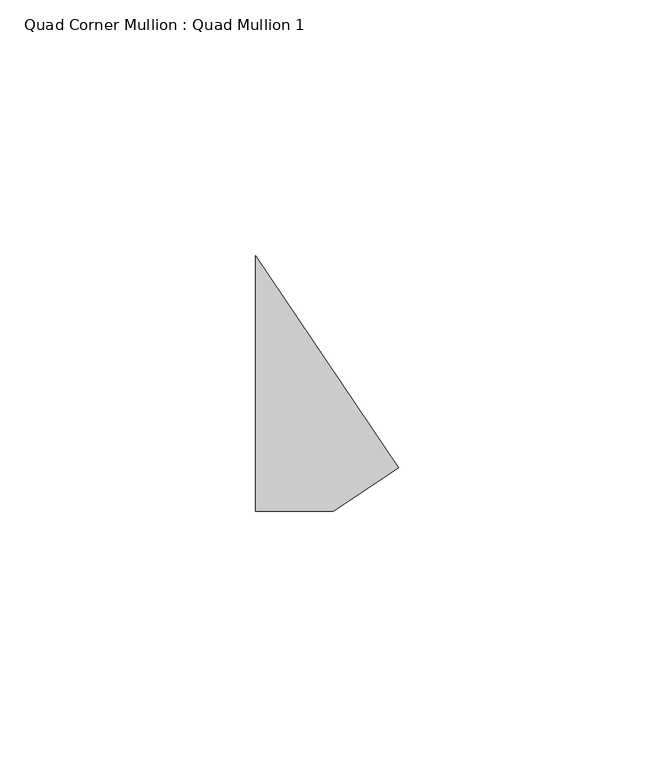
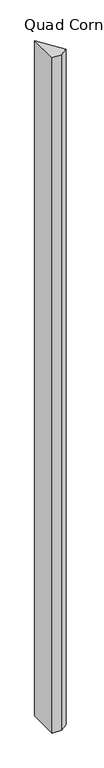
"""IFC4 building model written with IfcOpenShell, lengths in millimetres: member geometry, Quad Corner Mullion : Quad Mullion 1."""

import ifcopenshell
import ifcopenshell.guid

model = None  # the IFC model being written
_history = None  # IfcOwnerHistory: only IFC2X3 demands one
_inside = {}  # id of a spatial element -> (the spatial element, [elements in it])
_under = {}  # id of a project, library or spatial element -> (it, [spatial elements below it])
_declared = {}  # id of a project -> (the project, [libraries it declares])
_typed = {}  # id of a type object -> (the type object, [elements of that type])
_made_of = {}  # id of a material, layer set ... -> (it, [elements and type objects made of it])


def new_model(schema):
    """Start an empty IFC model of exactly this schema.

    Asked for "IFC4X3", IfcOpenShell would pick the latest addendum, in which some entities
    have other attributes; the version numbers below select the first issue.
    IFC2X3 requires an IfcOwnerHistory on every rooted entity: one is made here for all.
    """
    global model, _history
    if schema == "IFC4X3":
        model = ifcopenshell.file(schema_version=(4, 3, 0, 0))
    else:
        model = ifcopenshell.file(schema=schema)
    _inside.clear()
    _under.clear()
    _declared.clear()
    _typed.clear()
    _made_of.clear()
    _history = None
    if model.schema == "IFC2X3":
        org = make("IfcOrganization", Name="unknown")
        user = make(
            "IfcPersonAndOrganization",
            ThePerson=make("IfcPerson", FamilyName="unknown"),
            TheOrganization=org,
        )
        app = make(
            "IfcApplication",
            ApplicationDeveloper=org,
            Version="unknown",
            ApplicationFullName="unknown",
            ApplicationIdentifier="unknown",
        )
        _history = make(
            "IfcOwnerHistory",
            OwningUser=user,
            OwningApplication=app,
            ChangeAction="ADDED",
            CreationDate=0,
        )
    return model


def make(cls, **values):
    """One entity of the class cls with the attributes given. An attribute that is None is left unset."""
    return model.create_entity(
        cls, **{name: value for name, value in values.items() if value is not None}
    )


def rooted(cls, **values):
    """An entity with a GlobalId (a new one), such as an element, a storey or a relation."""
    return make(cls, GlobalId=ifcopenshell.guid.new(), OwnerHistory=_history, **values)


def si_unit(unit_type, name, prefix=None):
    """IfcSIUnit, for example si_unit("LENGTHUNIT", "METRE", prefix="MILLI")."""
    return make("IfcSIUnit", UnitType=unit_type, Prefix=prefix, Name=name)


def assignment(units):
    """IfcUnitAssignment: the units of a project."""
    return None if units is None else make("IfcUnitAssignment", Units=units)


def point(xyz):
    """IfcCartesianPoint."""
    return None if xyz is None else make("IfcCartesianPoint", Coordinates=xyz)


def direction(xyz):
    """IfcDirection."""
    return None if xyz is None else make("IfcDirection", DirectionRatios=xyz)


def frame(location, z_axis=None, x_axis=None):
    """IfcAxis2Placement3D, a coordinate frame: its origin and axes. An axis left out is left unset."""
    return make(
        "IfcAxis2Placement3D",
        Location=point(location),
        Axis=direction(z_axis),
        RefDirection=direction(x_axis),
    )


def origin():
    """The frame at (0, 0, 0) with its axes left unset."""
    return frame((0.0, 0.0, 0.0))


def place(relative_to, where):
    """IfcLocalPlacement: puts the frame where relative to a parent placement (None: the world)."""
    return make(
        "IfcLocalPlacement", PlacementRelTo=relative_to, RelativePlacement=where
    )


def context(
    kind, dimensions, precision=None, world=None, true_north=None, identifier=None
):
    """IfcGeometricRepresentationContext, for example the 3D "Model" context."""
    return make(
        "IfcGeometricRepresentationContext",
        ContextIdentifier=identifier,
        ContextType=kind,
        CoordinateSpaceDimension=dimensions,
        Precision=precision,
        WorldCoordinateSystem=world,
        TrueNorth=true_north,
    )


def project(units=None, contexts=None):
    """IfcProject with its units and contexts."""
    return rooted(
        "IfcProject",
        Name="project",
        RepresentationContexts=contexts,
        UnitsInContext=assignment(units),
    )


def spatial(cls, under=None, at=None, **own):
    """A site, building, storey or space (cls), placed at a placement, below another one or the project."""
    s = rooted(cls, ObjectPlacement=at, **own)
    if under is not None:
        _under.setdefault(under.id(), (under, []))[1].append(s)
    return s


def polyline(points):
    """IfcPolyline through the points."""
    return make("IfcPolyline", Points=[point(p) for p in points])


def outline(outer, holes=None, kind="AREA"):
    """IfcArbitraryClosedProfileDef: a profile drawn as a closed curve; with holes, ...WithVoids."""
    if holes is None:
        return make("IfcArbitraryClosedProfileDef", ProfileType=kind, OuterCurve=outer)
    return make(
        "IfcArbitraryProfileDefWithVoids",
        ProfileType=kind,
        OuterCurve=outer,
        InnerCurves=holes,
    )


def extrude(swept, where, along, depth):
    """IfcExtrudedAreaSolid: the profile swept, set in the frame where, extruded along a direction by depth."""
    return make(
        "IfcExtrudedAreaSolid",
        SweptArea=swept,
        Position=where,
        ExtrudedDirection=direction(along),
        Depth=depth,
    )


def shape(context_of_items, identifier, shape_type, items):
    """IfcShapeRepresentation: the items that make up one representation, for example the "Body"."""
    return make(
        "IfcShapeRepresentation",
        ContextOfItems=context_of_items,
        RepresentationIdentifier=identifier,
        RepresentationType=shape_type,
        Items=items,
    )


def source(mapping_origin, context_of_items, identifier, shape_type, items):
    """IfcRepresentationMap: a shape defined once, which mapped items show again and again."""
    return make(
        "IfcRepresentationMap",
        MappingOrigin=mapping_origin,
        MappedRepresentation=shape(context_of_items, identifier, shape_type, items),
    )


def transform(
    local_origin,
    x_axis=None,
    y_axis=None,
    z_axis=None,
    scale=None,
    scale2=None,
    scale3=None,
    uniform=True,
):
    """IfcCartesianTransformationOperator3D, or its non-uniform kind. x_axis, y_axis, z_axis: its Axis1, 2, 3."""
    if uniform:
        return make(
            "IfcCartesianTransformationOperator3D",
            Axis1=direction(x_axis),
            Axis2=direction(y_axis),
            LocalOrigin=point(local_origin),
            Scale=scale,
            Axis3=direction(z_axis),
        )
    return make(
        "IfcCartesianTransformationOperator3DnonUniform",
        Axis1=direction(x_axis),
        Axis2=direction(y_axis),
        LocalOrigin=point(local_origin),
        Scale=scale,
        Axis3=direction(z_axis),
        Scale2=scale2,
        Scale3=scale3,
    )


def mapped(mapping_source, mapping_target):
    """IfcMappedItem: shows the shape of a source again, moved by a transform."""
    return make(
        "IfcMappedItem", MappingSource=mapping_source, MappingTarget=mapping_target
    )


def made_of(thing, what):
    """Note that an element or type object is made of a material, layer set ...; save() writes the relation."""
    if what is not None:
        _made_of.setdefault(what.id(), (what, []))[1].append(thing)
    return thing


def element(
    cls,
    number,
    at=None,
    inside=None,
    cuts=None,
    type_object=None,
    material=None,
    context=None,
    identifier="Body",
    shape_type=None,
    held_by="IfcProductDefinitionShape",
    body=None,
    shapes=None,
    **own,
):
    """One element of the class cls, such as IfcWall. Its Tag is "e" and its number.

    at: its placement. inside: the storey or other place that contains it. cuts: it is an
    opening in that element (IfcRelVoidsElement). A single representation is given by context,
    identifier, shape_type and body (its items); several are given by shapes. held_by: the class
    of the entity that holds the representations. save() writes the other relations.
    """
    e = rooted(cls, Tag="e%d" % number, ObjectPlacement=at, **own)
    if body is not None:
        shapes = [shape(context, identifier, shape_type, body)]
    if shapes is not None:
        e.Representation = make(held_by, Representations=shapes)
    if inside is not None:
        _inside.setdefault(inside.id(), (inside, []))[1].append(e)
    if cuts is not None:
        rooted(
            "IfcRelVoidsElement", RelatingBuildingElement=cuts, RelatedOpeningElement=e
        )
    if type_object is not None:
        _typed.setdefault(type_object.id(), (type_object, []))[1].append(e)
    return made_of(e, material)


def aggregate(whole, parts):
    """IfcRelAggregates: a whole, such as a stair, and the parts it consists of."""
    return rooted("IfcRelAggregates", RelatingObject=whole, RelatedObjects=parts)


def save(model, path):
    """Write the relations noted so far, then the file.

    IfcRelAggregates (storeys below a building ...), IfcRelContainedInSpatialStructure (elements
    in a storey), IfcRelDefinesByType, IfcRelAssociatesMaterial and IfcRelDeclares: one each for
    every whole, place, type object, material and project.
    """
    for whole, parts in _under.values():
        aggregate(whole, parts)
    for where, things in _inside.values():
        rooted(
            "IfcRelContainedInSpatialStructure",
            RelatedElements=things,
            RelatingStructure=where,
        )
    for kind, things in _typed.values():
        rooted("IfcRelDefinesByType", RelatedObjects=things, RelatingType=kind)
    for what, things in _made_of.values():
        rooted("IfcRelAssociatesMaterial", RelatedObjects=things, RelatingMaterial=what)
    for by, libraries in _declared.values():
        rooted("IfcRelDeclares", RelatingContext=by, RelatedDefinitions=libraries)
    model.write(path)


def quad_corner_mullion_quad_mullion_1_aaf0480d(model_context):
    return source(origin(), model_context, "Body", "SweptSolid", [
        extrude(outline(polyline([(20.3163781, -16.4518786), (7.643267, -25.0), (-7.643267, -25.0), (-7.643267, 25.0), (20.3163781, -16.4518786)])), frame((0.0, 0.0, -1180.0), z_axis=(0.0, 0.0, 1.0), x_axis=(1.0, 0.0, 0.0)), (0.0, 0.0, 1.0), 1180.0),
    ])


if __name__ == "__main__":
    model = new_model("IFC4")
    model_context = context("Model", 3, world=origin())
    ifc_project = project(units=[si_unit("LENGTHUNIT", "METRE", prefix="MILLI")], contexts=[model_context])
    site = spatial("IfcSite", under=ifc_project)
    building = spatial("IfcBuilding", under=site)
    placement = place(None, origin())
    quad_corner_mullion_quad_mullion_1_shape = quad_corner_mullion_quad_mullion_1_aaf0480d(model_context)
    element("IfcMember", 1, ObjectType="Quad Corner Mullion : Quad Mullion 1", at=placement, inside=building, context=model_context, shape_type="MappedRepresentation", body=[
        mapped(quad_corner_mullion_quad_mullion_1_shape, transform((0.0, 0.0, 0.0), x_axis=(1.0, 0.0, 0.0), y_axis=(0.0, 1.0, 0.0), z_axis=(0.0, 0.0, 1.0))),
    ])
    save(model, "model.ifc")
